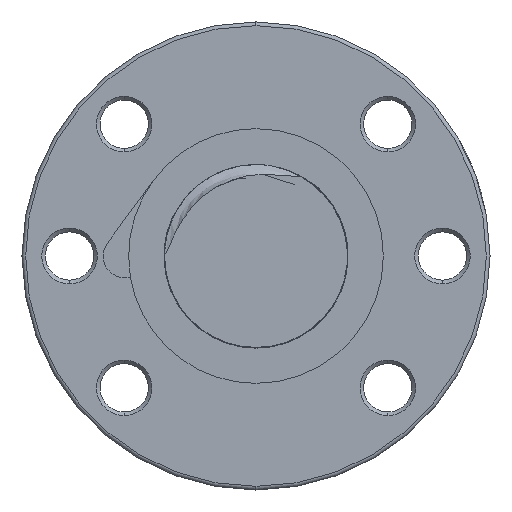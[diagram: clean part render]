
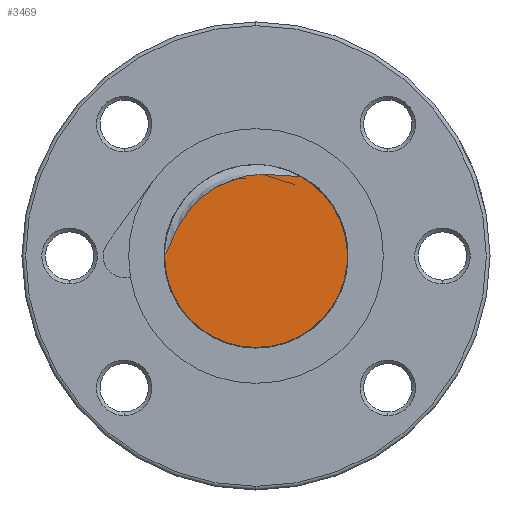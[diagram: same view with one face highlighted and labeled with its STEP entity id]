
A CAD part, left-side view. The second image highlights one B-rep face of the part: STEP entity #3469.
In plain terms, the highlighted planar face has unit normal (-1, 0, 0).
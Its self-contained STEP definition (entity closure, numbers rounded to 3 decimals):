
#2958 = VERTEX_POINT ( 'NONE', #17084 ) ;
#2960 = EDGE_CURVE ( 'NONE', #2958, #2983, #17082, .T. ) ;
#2983 = VERTEX_POINT ( 'NONE', #17166 ) ;
#3061 = EDGE_CURVE ( 'NONE', #3062, #2958, #10090, .T. ) ;
#3062 = VERTEX_POINT ( 'NONE', #10134 ) ;
#3372 = ORIENTED_EDGE ( 'NONE', *, *, #3503, .T. ) ;
#3469 = ADVANCED_FACE ( 'NONE', ( #16778 ), #16725, .F. ) ;
#3470 = EDGE_LOOP ( 'NONE', ( #3497, #3372, #3504 ) ) ;
#3497 = ORIENTED_EDGE ( 'NONE', *, *, #3061, .F. ) ;
#3503 = EDGE_CURVE ( 'NONE', #3062, #2983, #12741, .T. ) ;
#3504 = ORIENTED_EDGE ( 'NONE', *, *, #2960, .F. ) ;
#10090 = CIRCLE ( 'NONE', #10138, 12.5 ) ;
#10134 = CARTESIAN_POINT ( 'NONE',  ( -130., -6.111, 10.904 ) ) ;
#10135 = DIRECTION ( 'NONE',  ( 0., 1., 0. ) ) ;
#10136 = DIRECTION ( 'NONE',  ( 1., 0., 0. ) ) ;
#10137 = CARTESIAN_POINT ( 'NONE',  ( -130., 0., 0. ) ) ;
#10138 = AXIS2_PLACEMENT_3D ( 'NONE', #10137, #10136, #10135 ) ;
#12704 = CARTESIAN_POINT ( 'NONE',  ( -130., 12.499, 0.161 ) ) ;
#12705 = CARTESIAN_POINT ( 'NONE',  ( -130., 12.417, 0.254 ) ) ;
#12706 = CARTESIAN_POINT ( 'NONE',  ( -130., 12.35, 0.359 ) ) ;
#12707 = CARTESIAN_POINT ( 'NONE',  ( -130., 12.225, 0.572 ) ) ;
#12708 = CARTESIAN_POINT ( 'NONE',  ( -130., 12.169, 0.683 ) ) ;
#12709 = CARTESIAN_POINT ( 'NONE',  ( -130., 12.006, 1.017 ) ) ;
#12710 = CARTESIAN_POINT ( 'NONE',  ( -130., 11.907, 1.244 ) ) ;
#12711 = CARTESIAN_POINT ( 'NONE',  ( -130., 11.612, 1.926 ) ) ;
#12712 = CARTESIAN_POINT ( 'NONE',  ( -130., 11.418, 2.382 ) ) ;
#12713 = CARTESIAN_POINT ( 'NONE',  ( -130., 10.792, 3.724 ) ) ;
#12714 = CARTESIAN_POINT ( 'NONE',  ( -130., 10.318, 4.587 ) ) ;
#12715 = CARTESIAN_POINT ( 'NONE',  ( -130., 9.473, 5.803 ) ) ;
#12716 = CARTESIAN_POINT ( 'NONE',  ( -130., 9.168, 6.197 ) ) ;
#12717 = CARTESIAN_POINT ( 'NONE',  ( -130., 8.518, 6.953 ) ) ;
#12718 = CARTESIAN_POINT ( 'NONE',  ( -130., 8.175, 7.31 ) ) ;
#12719 = CARTESIAN_POINT ( 'NONE',  ( -130., 7.453, 7.982 ) ) ;
#12720 = CARTESIAN_POINT ( 'NONE',  ( -130., 7.075, 8.298 ) ) ;
#12721 = CARTESIAN_POINT ( 'NONE',  ( -130., 6.281, 8.886 ) ) ;
#12722 = CARTESIAN_POINT ( 'NONE',  ( -130., 5.864, 9.16 ) ) ;
#12723 = CARTESIAN_POINT ( 'NONE',  ( -130., 4.568, 9.907 ) ) ;
#12724 = CARTESIAN_POINT ( 'NONE',  ( -130., 3.664, 10.3 ) ) ;
#12725 = CARTESIAN_POINT ( 'NONE',  ( -130., 2.247, 10.735 ) ) ;
#12726 = CARTESIAN_POINT ( 'NONE',  ( -130., 1.762, 10.854 ) ) ;
#12727 = CARTESIAN_POINT ( 'NONE',  ( -130., 0.783, 11.039 ) ) ;
#12728 = CARTESIAN_POINT ( 'NONE',  ( -130., 0.292, 11.104 ) ) ;
#12729 = CARTESIAN_POINT ( 'NONE',  ( -130., -1.18, 11.228 ) ) ;
#12730 = CARTESIAN_POINT ( 'NONE',  ( -130., -2.164, 11.209 ) ) ;
#12731 = CARTESIAN_POINT ( 'NONE',  ( -130., -3.642, 11.08 ) ) ;
#12732 = CARTESIAN_POINT ( 'NONE',  ( -130., -4.134, 11.019 ) ) ;
#12733 = CARTESIAN_POINT ( 'NONE',  ( -130., -4.874, 10.933 ) ) ;
#12734 = CARTESIAN_POINT ( 'NONE',  ( -130., -5.12, 10.905 ) ) ;
#12735 = CARTESIAN_POINT ( 'NONE',  ( -130., -5.491, 10.879 ) ) ;
#12736 = CARTESIAN_POINT ( 'NONE',  ( -130., -5.615, 10.873 ) ) ;
#12737 = CARTESIAN_POINT ( 'NONE',  ( -130., -5.864, 10.874 ) ) ;
#12738 = CARTESIAN_POINT ( 'NONE',  ( -130., -5.99, 10.88 ) ) ;
#12739 = CARTESIAN_POINT ( 'NONE',  ( -130., -6.111, 10.904 ) ) ;
#12741 = B_SPLINE_CURVE_WITH_KNOTS ( 'NONE', 3,
 ( #12739, #12738, #12737, #12736, #12735, #12734, #12733, #12732, #12731, #12730, #12729, #12728, #12727, #12726, #12725, #12724, #12723, #12722, #12721, #12720, #12719, #12718, #12717, #12716, #12715, #12714, #12713, #12712, #12711, #12710, #12709, #12708, #12707, #12706, #12705, #12704 ),
 .UNSPECIFIED., .F., .F.,
 ( 4, 2, 2, 2, 2, 2, 2, 2, 2, 2, 2, 2, 2, 2, 2, 2, 2, 4 ),
 ( 0.002, 0.003, 0.003, 0.004, 0.005, 0.008, 0.01, 0.011, 0.014, 0.016, 0.017, 0.019, 0.02, 0.023, 0.025, 0.025, 0.026, 0.026 ),
 .UNSPECIFIED. ) ;
#16721 = DIRECTION ( 'NONE',  ( 0., 0., -1. ) ) ;
#16722 = DIRECTION ( 'NONE',  ( 1., 0., 0. ) ) ;
#16723 = CARTESIAN_POINT ( 'NONE',  ( -130., 0., 0. ) ) ;
#16724 = AXIS2_PLACEMENT_3D ( 'NONE', #16723, #16722, #16721 ) ;
#16725 = PLANE ( 'NONE',  #16724 ) ;
#16778 = FACE_OUTER_BOUND ( 'NONE', #3470, .T. ) ;
#17078 = DIRECTION ( 'NONE',  ( 0., 1., 0. ) ) ;
#17079 = DIRECTION ( 'NONE',  ( 1., 0., 0. ) ) ;
#17080 = CARTESIAN_POINT ( 'NONE',  ( -130., 0., 0. ) ) ;
#17081 = AXIS2_PLACEMENT_3D ( 'NONE', #17080, #17079, #17078 ) ;
#17082 = CIRCLE ( 'NONE', #17081, 12.5 ) ;
#17084 = CARTESIAN_POINT ( 'NONE',  ( -130., 0., -12.5 ) ) ;
#17166 = CARTESIAN_POINT ( 'NONE',  ( -130., 12.499, 0.161 ) ) ;
